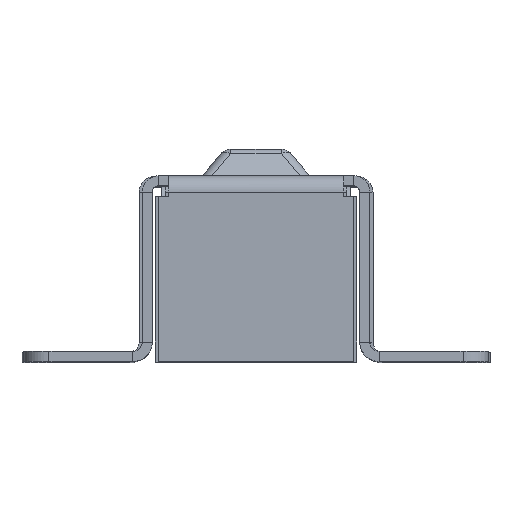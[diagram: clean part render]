
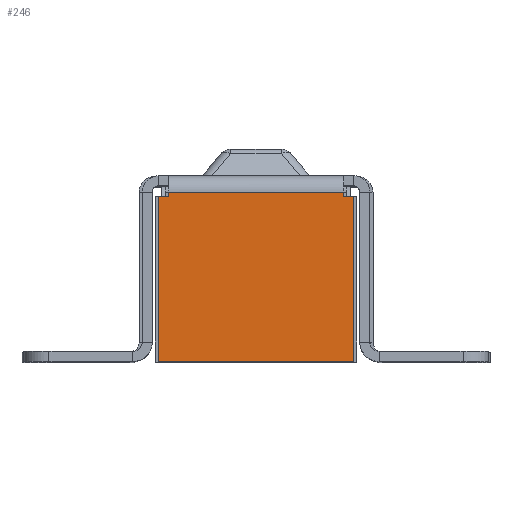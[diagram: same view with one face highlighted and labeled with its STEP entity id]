
A CAD part, top view. The second image highlights one B-rep face of the part: STEP entity #246.
In plain terms, the highlighted planar face has unit normal (0, 0, 1).
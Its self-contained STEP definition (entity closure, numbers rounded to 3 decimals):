
#246=ADVANCED_FACE('',(#540),#3854,.T.);
#540=FACE_OUTER_BOUND('',#828,.T.);
#828=EDGE_LOOP('',(#1921,#1922,#1923,#1924,#1925,#1926,#1927,#1928));
#1921=ORIENTED_EDGE('',*,*,#2583,.T.);
#1922=ORIENTED_EDGE('',*,*,#2588,.T.);
#1923=ORIENTED_EDGE('',*,*,#2568,.F.);
#1924=ORIENTED_EDGE('',*,*,#2589,.F.);
#1925=ORIENTED_EDGE('',*,*,#2570,.T.);
#1926=ORIENTED_EDGE('',*,*,#2574,.T.);
#1927=ORIENTED_EDGE('',*,*,#2579,.T.);
#1928=ORIENTED_EDGE('',*,*,#2582,.T.);
#2568=EDGE_CURVE('',#3549,#3547,#3215,.T.);
#2570=EDGE_CURVE('',#3551,#3552,#3216,.T.);
#2574=EDGE_CURVE('',#3552,#3555,#3220,.T.);
#2579=EDGE_CURVE('',#3555,#3558,#3225,.T.);
#2582=EDGE_CURVE('',#3558,#3560,#3228,.T.);
#2583=EDGE_CURVE('',#3560,#3561,#3229,.T.);
#2588=EDGE_CURVE('',#3561,#3547,#3234,.T.);
#2589=EDGE_CURVE('',#3551,#3549,#3235,.T.);
#3215=B_SPLINE_CURVE_WITH_KNOTS('',1,(#6680,#6681),.UNSPECIFIED.,.F.,.F.,
(2,2),(0.,13.95),.UNSPECIFIED.);
#3216=B_SPLINE_CURVE_WITH_KNOTS('',1,(#6685,#6686),.UNSPECIFIED.,.F.,.F.,
(2,2),(-0.8,0.),.UNSPECIFIED.);
#3220=B_SPLINE_CURVE_WITH_KNOTS('',1,(#6693,#6694),.UNSPECIFIED.,.F.,.F.,
(2,2),(-13.174,0.),.UNSPECIFIED.);
#3225=B_SPLINE_CURVE_WITH_KNOTS('',1,(#6703,#6704),.UNSPECIFIED.,.F.,.F.,
(2,2),(-15.55,0.),.UNSPECIFIED.);
#3228=B_SPLINE_CURVE_WITH_KNOTS('',1,(#6709,#6710),.UNSPECIFIED.,.F.,.F.,
(2,2),(-13.174,0.),.UNSPECIFIED.);
#3229=B_SPLINE_CURVE_WITH_KNOTS('',1,(#6711,#6712),.UNSPECIFIED.,.F.,.F.,
(2,2),(-0.8,0.),.UNSPECIFIED.);
#3234=B_SPLINE_CURVE_WITH_KNOTS('',1,(#6721,#6722),.UNSPECIFIED.,.F.,.F.,
(2,2),(-0.326,0.),.UNSPECIFIED.);
#3235=B_SPLINE_CURVE_WITH_KNOTS('',1,(#6723,#6724),.UNSPECIFIED.,.F.,.F.,
(2,2),(-0.326,0.),.UNSPECIFIED.);
#3547=VERTEX_POINT('',#6323);
#3549=VERTEX_POINT('',#6325);
#3551=VERTEX_POINT('',#6327);
#3552=VERTEX_POINT('',#6328);
#3555=VERTEX_POINT('',#6331);
#3558=VERTEX_POINT('',#6334);
#3560=VERTEX_POINT('',#6336);
#3561=VERTEX_POINT('',#6337);
#3854=PLANE('',#4168);
#4168=AXIS2_PLACEMENT_3D('',#6228,#4418,$);
#4418=DIRECTION('',(0.,0.,1.));
#6228=CARTESIAN_POINT('',(-9.33,-16.15,45.574));
#6323=CARTESIAN_POINT('',(6.975,-1.3,45.574));
#6325=CARTESIAN_POINT('',(-6.975,-1.3,45.574));
#6327=CARTESIAN_POINT('',(-6.975,-1.626,45.574));
#6328=CARTESIAN_POINT('',(-7.775,-1.626,45.574));
#6331=CARTESIAN_POINT('',(-7.775,-14.8,45.574));
#6334=CARTESIAN_POINT('',(7.775,-14.8,45.574));
#6336=CARTESIAN_POINT('',(7.775,-1.626,45.574));
#6337=CARTESIAN_POINT('',(6.975,-1.626,45.574));
#6680=CARTESIAN_POINT('',(-6.975,-1.3,45.574));
#6681=CARTESIAN_POINT('',(6.975,-1.3,45.574));
#6685=CARTESIAN_POINT('',(-6.975,-1.626,45.574));
#6686=CARTESIAN_POINT('',(-7.775,-1.626,45.574));
#6693=CARTESIAN_POINT('',(-7.775,-1.626,45.574));
#6694=CARTESIAN_POINT('',(-7.775,-14.8,45.574));
#6703=CARTESIAN_POINT('',(-7.775,-14.8,45.574));
#6704=CARTESIAN_POINT('',(7.775,-14.8,45.574));
#6709=CARTESIAN_POINT('',(7.775,-14.8,45.574));
#6710=CARTESIAN_POINT('',(7.775,-1.626,45.574));
#6711=CARTESIAN_POINT('',(7.775,-1.626,45.574));
#6712=CARTESIAN_POINT('',(6.975,-1.626,45.574));
#6721=CARTESIAN_POINT('',(6.975,-1.626,45.574));
#6722=CARTESIAN_POINT('',(6.975,-1.3,45.574));
#6723=CARTESIAN_POINT('',(-6.975,-1.626,45.574));
#6724=CARTESIAN_POINT('',(-6.975,-1.3,45.574));
